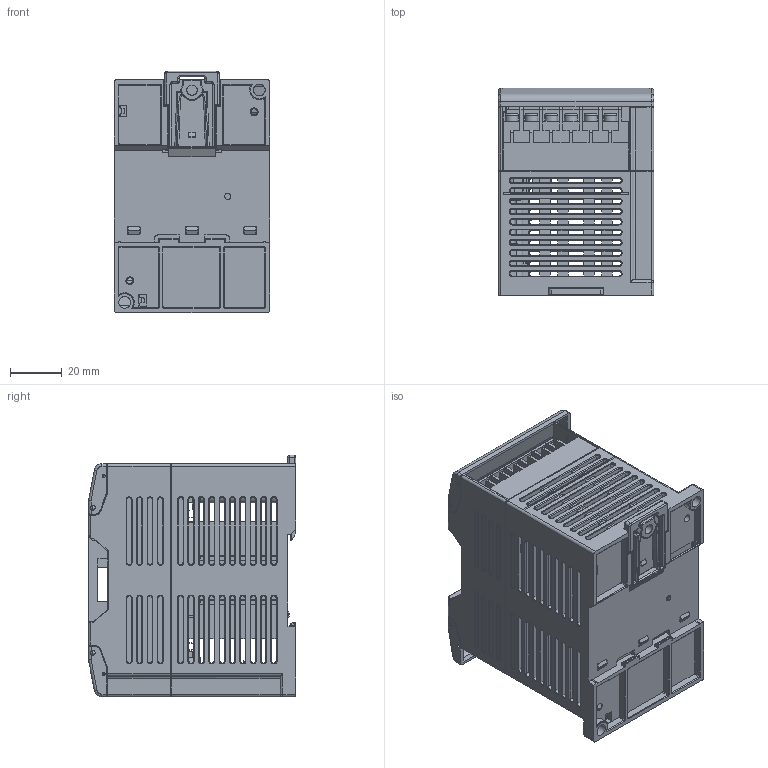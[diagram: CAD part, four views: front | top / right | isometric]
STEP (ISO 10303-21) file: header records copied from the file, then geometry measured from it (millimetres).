
FILE_DESCRIPTION(/* description */ (''),/* implementation_level */ '2;1');
FILE_NAME(/* name */ 'FBB491~1',/* time_stamp */ '2021-06-10T12:13:37+08:00',/* author */ (''),/* organization */ (''),/* preprocessor_version */ 'ST-DEVELOPER v16.5',/* originating_system */ '',/* authorisation */ '');
FILE_SCHEMA (('CONFIG_CONTROL_DESIGN'));
Products named in the file (1): Document
Bounding box: 60 x 80.06 x 93.3 mm (x, y, z)
Surface area: 98412.9 mm2 (no closed solid volume)
Topology: 0 solids, 2808 shells, 2808 faces, 14404 edges, 14391 vertices
Faces by surface type: plane 1600, cylinder 834, bspline 374
Entity records: 156296 total; most frequent: CARTESIAN_POINT 80475, ORIENTED_EDGE 14396, EDGE_CURVE 14396, VERTEX_POINT 14391, B_SPLINE_CURVE_WITH_KNOTS 10672, EDGE_LOOP 3075, SHELL_BASED_SURFACE_MODEL 2808, OPEN_SHELL 2808
